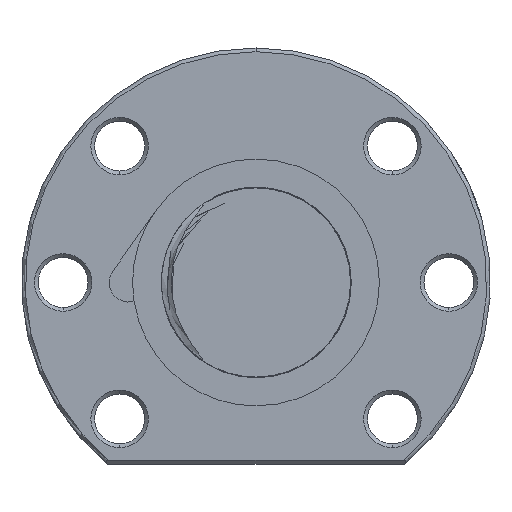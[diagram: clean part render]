
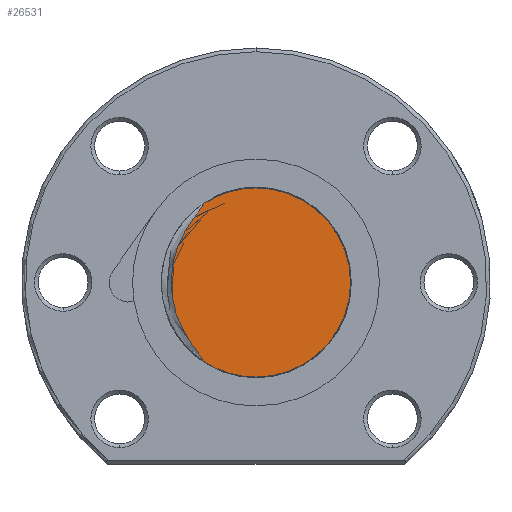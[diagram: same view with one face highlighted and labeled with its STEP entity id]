
A CAD part, left-side view. The second image highlights one B-rep face of the part: STEP entity #26531.
In plain terms, the highlighted planar face has unit normal (-1, 0, 0).
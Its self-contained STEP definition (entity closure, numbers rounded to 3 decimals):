
#12824 = CARTESIAN_POINT ( 'NONE',  ( -150., 11.21, -0.48 ) ) ;
#12825 = CARTESIAN_POINT ( 'NONE',  ( -150., 11.21, 0.971 ) ) ;
#13112 = CARTESIAN_POINT ( 'NONE',  ( -150., 11.105, 1.92 ) ) ;
#13113 = CARTESIAN_POINT ( 'NONE',  ( -150., 10.793, 3.315 ) ) ;
#13114 = CARTESIAN_POINT ( 'NONE',  ( -150., 10.664, 3.776 ) ) ;
#13115 = CARTESIAN_POINT ( 'NONE',  ( -150., 10.355, 4.689 ) ) ;
#13116 = CARTESIAN_POINT ( 'NONE',  ( -150., 10.175, 5.141 ) ) ;
#13117 = CARTESIAN_POINT ( 'NONE',  ( -150., 9.576, 6.453 ) ) ;
#13118 = CARTESIAN_POINT ( 'NONE',  ( -150., 9.093, 7.279 ) ) ;
#13119 = CARTESIAN_POINT ( 'NONE',  ( -150., 8.274, 8.465 ) ) ;
#13120 = CARTESIAN_POINT ( 'NONE',  ( -150., 7.984, 8.851 ) ) ;
#13121 = CARTESIAN_POINT ( 'NONE',  ( -150., 7.547, 9.428 ) ) ;
#13122 = CARTESIAN_POINT ( 'NONE',  ( -150., 7.401, 9.62 ) ) ;
#13123 = CARTESIAN_POINT ( 'NONE',  ( -150., 7.191, 9.914 ) ) ;
#13124 = CARTESIAN_POINT ( 'NONE',  ( -150., 7.122, 10.013 ) ) ;
#13125 = CARTESIAN_POINT ( 'NONE',  ( -150., 6.993, 10.217 ) ) ;
#13126 = CARTESIAN_POINT ( 'NONE',  ( -150., 6.932, 10.322 ) ) ;
#13127 = CARTESIAN_POINT ( 'NONE',  ( -150., 6.885, 10.433 ) ) ;
#13129 = B_SPLINE_CURVE_WITH_KNOTS ( 'NONE', 3,
 ( #13127, #13126, #13125, #13124, #13123, #13122, #13121, #13120, #13119, #13118, #13117, #13116, #13115, #13114, #13113, #13112, #12825, #12824, #13184, #13183, #13182, #13181, #13180, #13179, #13178, #13177, #13176, #13175, #13174, #13173, #13172, #13171, #13170, #13169, #13168, #13167 ),
 .UNSPECIFIED., .F., .F.,
 ( 4, 2, 2, 2, 2, 2, 2, 2, 2, 2, 2, 2, 2, 2, 2, 2, 2, 4 ),
 ( 0.008, 0.008, 0.009, 0.009, 0.011, 0.014, 0.015, 0.017, 0.019, 0.021, 0.022, 0.024, 0.025, 0.028, 0.03, 0.03, 0.031, 0.031 ),
 .UNSPECIFIED. ) ;
#13156 = DIRECTION ( 'NONE',  ( 0., 0., -1. ) ) ;
#13157 = DIRECTION ( 'NONE',  ( 1., 0., 0. ) ) ;
#13158 = CARTESIAN_POINT ( 'NONE',  ( -150., 0., 0. ) ) ;
#13159 = AXIS2_PLACEMENT_3D ( 'NONE', #13158, #13157, #13156 ) ;
#13160 = PLANE ( 'NONE',  #13159 ) ;
#13161 = FACE_OUTER_BOUND ( 'NONE', #26526, .T. ) ;
#13167 = CARTESIAN_POINT ( 'NONE',  ( -150., 6.887, -10.432 ) ) ;
#13168 = CARTESIAN_POINT ( 'NONE',  ( -150., 6.934, -10.321 ) ) ;
#13169 = CARTESIAN_POINT ( 'NONE',  ( -150., 6.996, -10.216 ) ) ;
#13170 = CARTESIAN_POINT ( 'NONE',  ( -150., 7.125, -10.013 ) ) ;
#13171 = CARTESIAN_POINT ( 'NONE',  ( -150., 7.193, -9.914 ) ) ;
#13172 = CARTESIAN_POINT ( 'NONE',  ( -150., 7.403, -9.621 ) ) ;
#13173 = CARTESIAN_POINT ( 'NONE',  ( -150., 7.548, -9.429 ) ) ;
#13174 = CARTESIAN_POINT ( 'NONE',  ( -150., 7.983, -8.853 ) ) ;
#13175 = CARTESIAN_POINT ( 'NONE',  ( -150., 8.27, -8.468 ) ) ;
#13176 = CARTESIAN_POINT ( 'NONE',  ( -150., 9.086, -7.284 ) ) ;
#13177 = CARTESIAN_POINT ( 'NONE',  ( -150., 9.57, -6.461 ) ) ;
#13178 = CARTESIAN_POINT ( 'NONE',  ( -150., 10.172, -5.152 ) ) ;
#13179 = CARTESIAN_POINT ( 'NONE',  ( -150., 10.353, -4.701 ) ) ;
#13180 = CARTESIAN_POINT ( 'NONE',  ( -150., 10.663, -3.786 ) ) ;
#13181 = CARTESIAN_POINT ( 'NONE',  ( -150., 10.792, -3.324 ) ) ;
#13182 = CARTESIAN_POINT ( 'NONE',  ( -150., 10.999, -2.389 ) ) ;
#13183 = CARTESIAN_POINT ( 'NONE',  ( -150., 11.078, -1.917 ) ) ;
#13184 = CARTESIAN_POINT ( 'NONE',  ( -150., 11.183, -0.964 ) ) ;
#17395 = VERTEX_POINT ( 'NONE', #18924 ) ;
#17435 = EDGE_CURVE ( 'NONE', #17436, #17437, #19233, .T. ) ;
#17436 = VERTEX_POINT ( 'NONE', #19228 ) ;
#17437 = VERTEX_POINT ( 'NONE', #19227 ) ;
#17443 = VERTEX_POINT ( 'NONE', #19217 ) ;
#17445 = EDGE_CURVE ( 'NONE', #17443, #17395, #19216, .T. ) ;
#17621 = EDGE_CURVE ( 'NONE', #17437, #17443, #20594, .T. ) ;
#18924 = CARTESIAN_POINT ( 'NONE',  ( -150., 6.887, -10.432 ) ) ;
#19212 = DIRECTION ( 'NONE',  ( 0., 1., 0. ) ) ;
#19213 = DIRECTION ( 'NONE',  ( 1., 0., 0. ) ) ;
#19214 = CARTESIAN_POINT ( 'NONE',  ( -150., 0., 0. ) ) ;
#19215 = AXIS2_PLACEMENT_3D ( 'NONE', #19214, #19213, #19212 ) ;
#19216 = CIRCLE ( 'NONE', #19215, 12.5 ) ;
#19217 = CARTESIAN_POINT ( 'NONE',  ( -150., 0., -12.5 ) ) ;
#19227 = CARTESIAN_POINT ( 'NONE',  ( -150., 0., 12.5 ) ) ;
#19228 = CARTESIAN_POINT ( 'NONE',  ( -150., 6.885, 10.433 ) ) ;
#19229 = DIRECTION ( 'NONE',  ( 0., 1., 0. ) ) ;
#19230 = DIRECTION ( 'NONE',  ( 1., 0., 0. ) ) ;
#19231 = CARTESIAN_POINT ( 'NONE',  ( -150., 0., 0. ) ) ;
#19232 = AXIS2_PLACEMENT_3D ( 'NONE', #19231, #19230, #19229 ) ;
#19233 = CIRCLE ( 'NONE', #19232, 12.5 ) ;
#20594 = CIRCLE ( 'NONE', #20670, 12.5 ) ;
#20667 = DIRECTION ( 'NONE',  ( 0., 1., 0. ) ) ;
#20668 = DIRECTION ( 'NONE',  ( 1., 0., 0. ) ) ;
#20669 = CARTESIAN_POINT ( 'NONE',  ( -150., 0., 0. ) ) ;
#20670 = AXIS2_PLACEMENT_3D ( 'NONE', #20669, #20668, #20667 ) ;
#26521 = ORIENTED_EDGE ( 'NONE', *, *, #17621, .F. ) ;
#26523 = ORIENTED_EDGE ( 'NONE', *, *, #17445, .F. ) ;
#26524 = EDGE_CURVE ( 'NONE', #17436, #17395, #13129, .T. ) ;
#26525 = ORIENTED_EDGE ( 'NONE', *, *, #26524, .T. ) ;
#26526 = EDGE_LOOP ( 'NONE', ( #26527, #26525, #26523, #26521 ) ) ;
#26527 = ORIENTED_EDGE ( 'NONE', *, *, #17435, .F. ) ;
#26531 = ADVANCED_FACE ( 'NONE', ( #13161 ), #13160, .F. ) ;
